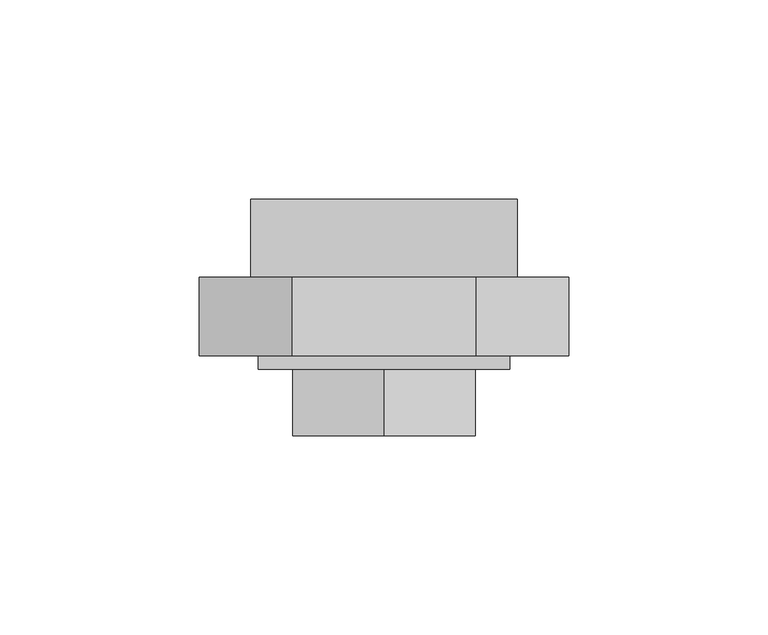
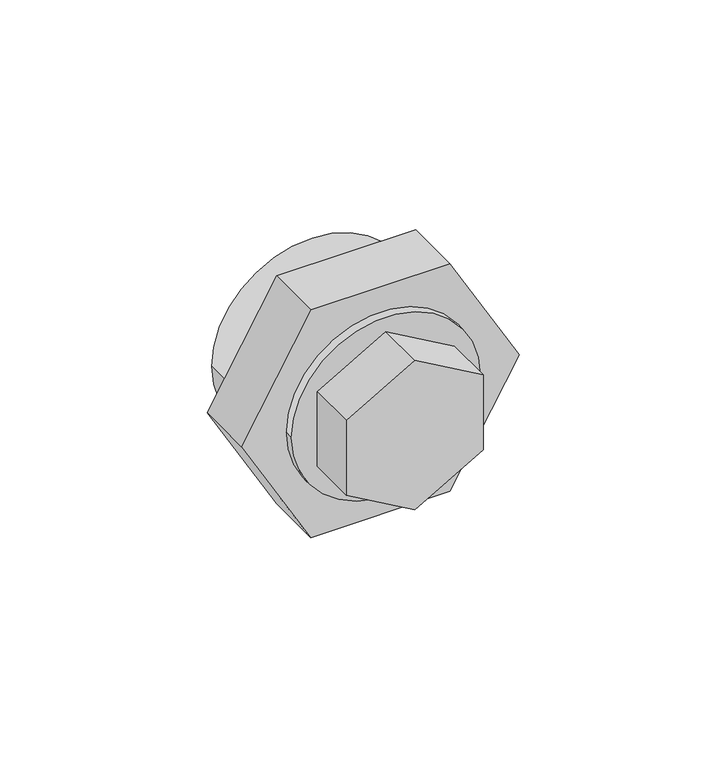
"""IFC4 building model written with IfcOpenShell, lengths in millimetres: pipe fitting geometry, EGB_VASEN_ PPR_Enlace desmontable rosca hembra WXR104 : Enlace desmontable rosca hembra WXR104."""

from ifc_helpers import new_model, si_unit, point, frame, origin, origin_2d, place, context, project, spatial, polyline, circle_curve, trimmed, segment, composite_curve, outline, extrude, source, transform, mapped, element, save


def pipe_fitting_f2a397c6(model_context):
    return source(origin(), model_context, "Body", "SweptSolid", [
        extrude(outline(polyline([(-13.1982272, -22.86), (-26.3964543, 0.0), (-13.1982272, 22.86), (13.1982272, 22.86), (26.3964543, 0.0), (13.1982272, -22.86), (-13.1982272, -22.86)])), frame((0.0, -39.0879167, 0.0), z_axis=(0.0, 1.0, 0.0), x_axis=(0.0, 0.0, 1.0)), (0.0, 0.0, 1.0), 16.6666667),
        extrude(outline(polyline([(0.0, 46.4189616), (40.2, 23.2094808), (40.2, -23.2094808), (0.0, -46.4189616), (-40.2, -23.2094808), (-40.2, 23.2094808), (0.0, 46.4189616)])), frame((0.0, -19.05375, 0.0), z_axis=(0.0, 1.0, 0.0), x_axis=(0.0, 0.0, 1.0)), (0.0, 0.0, 1.0), 19.6666667),
        extrude(outline(composite_curve([segment(trimmed(circle_curve(origin_2d(), 31.53), [point((0.0, -31.53))], [point((0.0, 31.53))], False, "CARTESIAN"), True, "CONTINUOUS"), segment(trimmed(circle_curve(origin_2d(), 31.53), [point((0.0, 31.53))], [point((0.0, -31.53))], False, "CARTESIAN"), True, "CONTINUOUS")], self_intersect=False)), frame((0.0, -22.42125, 0.0), z_axis=(0.0, 1.0, 0.0), x_axis=(0.0, 0.0, 1.0)), (0.0, 0.0, 1.0), 3.3675),
        extrude(outline(composite_curve([segment(trimmed(circle_curve(origin_2d(), 33.5), [point((0.0, -33.5))], [point((0.0, 33.5))], False, "CARTESIAN"), True, "CONTINUOUS"), segment(trimmed(circle_curve(origin_2d(), 33.5), [point((0.0, 33.5))], [point((0.0, -33.5))], False, "CARTESIAN"), True, "CONTINUOUS")], self_intersect=False), holes=[composite_curve([segment(trimmed(circle_curve(origin_2d(), 25.0), [point((0.0, -25.0))], [point((0.0, 25.0))], True, "CARTESIAN"), True, "CONTINUOUS"), segment(trimmed(circle_curve(origin_2d(), 25.0), [point((0.0, 25.0))], [point((0.0, -25.0))], True, "CARTESIAN"), True, "CONTINUOUS")], self_intersect=False)]), frame((0.0, 0.6129167, 0.0), z_axis=(0.0, 1.0, 0.0), x_axis=(0.0, 0.0, 1.0)), (0.0, 0.0, 1.0), 19.6666667),
    ])


if __name__ == "__main__":
    model = new_model("IFC4")
    model_context = context("Model", 3, world=origin())
    ifc_project = project(units=[si_unit("LENGTHUNIT", "METRE", prefix="MILLI")], contexts=[model_context])
    site = spatial("IfcSite", under=ifc_project)
    building = spatial("IfcBuilding", under=site)
    placement = place(None, origin())
    pipe_fitting_shape = pipe_fitting_f2a397c6(model_context)
    element("IfcPipeFitting", 1, ObjectType="EGB_VASEN_ PPR_Enlace desmontable rosca hembra WXR104 : Enlace desmontable rosca hembra WXR104", at=placement, inside=building, context=model_context, shape_type="MappedRepresentation", body=[
        mapped(pipe_fitting_shape, transform((0.0, 0.0, 0.0), x_axis=(1.0, 0.0, 0.0), y_axis=(0.0, 1.0, 0.0), z_axis=(0.0, 0.0, 1.0))),
    ])
    save(model, "model.ifc")
